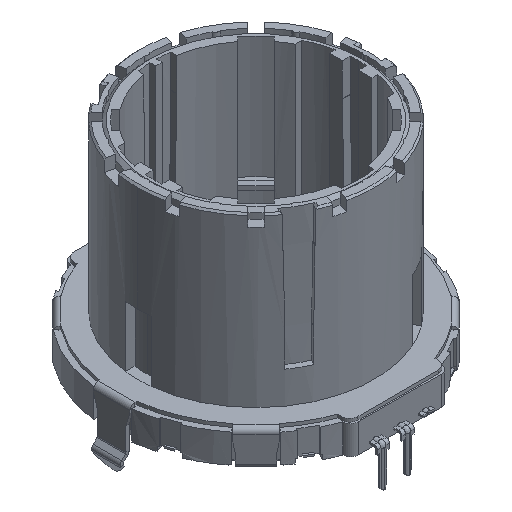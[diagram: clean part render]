
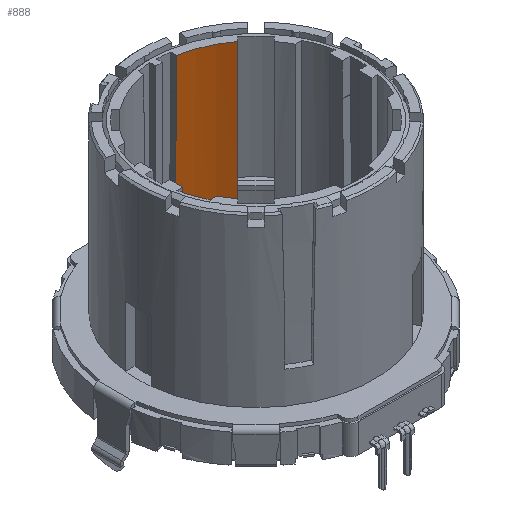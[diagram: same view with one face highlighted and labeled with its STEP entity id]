
A CAD part, isometric view. The second image highlights one B-rep face of the part: STEP entity #888.
In plain terms, the highlighted cylindrical face has radius 11.8 mm (diameter 23.6 mm), a partial arc.
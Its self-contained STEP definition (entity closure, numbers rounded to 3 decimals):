
#124 = CARTESIAN_POINT ( 'NONE',  ( -7.176, -9.368, 1.6 ) ) ;
#390 = ORIENTED_EDGE ( 'NONE', *, *, #37679, .T. ) ;
#571 = ORIENTED_EDGE ( 'NONE', *, *, #38125, .T. ) ;
#607 = CARTESIAN_POINT ( 'NONE',  ( -7.176, -9.368, 9.598 ) ) ;
#774 = AXIS2_PLACEMENT_3D ( 'NONE', #36142, #20303, #31395 ) ;
#888 = ADVANCED_FACE ( 'NONE', ( #32498 ), #12375, .F. ) ;
#931 = EDGE_CURVE ( 'NONE', #35921, #19997, #3735, .T. ) ;
#1370 = EDGE_CURVE ( 'NONE', #19569, #20358, #36460, .T. ) ;
#1493 = CIRCLE ( 'NONE', #41025, 11.8 ) ;
#1787 = LINE ( 'NONE', #28330, #18983 ) ;
#2416 = CARTESIAN_POINT ( 'NONE',  ( -1.883, -11.649, 10.603 ) ) ;
#2620 = ORIENTED_EDGE ( 'NONE', *, *, #27553, .T. ) ;
#3326 = ORIENTED_EDGE ( 'NONE', *, *, #38702, .T. ) ;
#3391 = VECTOR ( 'NONE', #13379, 1000. ) ;
#3735 = CIRCLE ( 'NONE', #774, 11.8 ) ;
#3882 = CARTESIAN_POINT ( 'NONE',  ( -7.176, -9.368, 13.1 ) ) ;
#3987 = DIRECTION ( 'NONE',  ( 0., 0., 1. ) ) ;
#4132 = VECTOR ( 'NONE', #3987, 1000. ) ;
#4390 = CARTESIAN_POINT ( 'NONE',  ( -7.176, -9.368, 24.6 ) ) ;
#5108 = AXIS2_PLACEMENT_3D ( 'NONE', #37582, #37846, #23611 ) ;
#5686 = AXIS2_PLACEMENT_3D ( 'NONE', #33535, #14256, #36747 ) ;
#6005 = VECTOR ( 'NONE', #38815, 1000. ) ;
#6383 = ORIENTED_EDGE ( 'NONE', *, *, #28188, .T. ) ;
#7125 = DIRECTION ( 'NONE',  ( 0., 0., 1. ) ) ;
#7132 = DIRECTION ( 'NONE',  ( 0., 0., 1. ) ) ;
#7653 = EDGE_CURVE ( 'NONE', #16490, #22680, #41532, .T. ) ;
#7840 = CARTESIAN_POINT ( 'NONE',  ( -2., -11.629, 20.6 ) ) ;
#8250 = CARTESIAN_POINT ( 'NONE',  ( -1.8, -11.662, 1.6 ) ) ;
#9303 = CARTESIAN_POINT ( 'NONE',  ( -1.85, -11.654, 5.6 ) ) ;
#11660 = ORIENTED_EDGE ( 'NONE', *, *, #28681, .T. ) ;
#12041 = DIRECTION ( 'NONE',  ( 0., 0., -1. ) ) ;
#12375 = CYLINDRICAL_SURFACE ( 'NONE', #5108, 11.8 ) ;
#12887 = ORIENTED_EDGE ( 'NONE', *, *, #1370, .T. ) ;
#13379 = DIRECTION ( 'NONE',  ( 0., 0., 1. ) ) ;
#14256 = DIRECTION ( 'NONE',  ( 0., 0., 1. ) ) ;
#16286 = CARTESIAN_POINT ( 'NONE',  ( -1.8, -11.662, 13.1 ) ) ;
#16490 = VERTEX_POINT ( 'NONE', #19732 ) ;
#16590 =( BOUNDED_CURVE ( )  B_SPLINE_CURVE ( 3, ( #37790, #21777, #2416, #25020 ),
 .UNSPECIFIED., .F., .F. ) 
 B_SPLINE_CURVE_WITH_KNOTS ( ( 4, 4 ),
 ( 4.546, 4.555 ),
 .UNSPECIFIED. ) 
 CURVE ( )  GEOMETRIC_REPRESENTATION_ITEM ( )  RATIONAL_B_SPLINE_CURVE ( ( 1., 1., 1., 1. ) ) 
 REPRESENTATION_ITEM ( '' )  );
#18405 = VERTEX_POINT ( 'NONE', #21752 ) ;
#18983 = VECTOR ( 'NONE', #12041, 1000. ) ;
#19330 = EDGE_CURVE ( 'NONE', #26879, #36456, #1493, .T. ) ;
#19569 = VERTEX_POINT ( 'NONE', #8250 ) ;
#19732 = CARTESIAN_POINT ( 'NONE',  ( -7.176, -9.368, 9. ) ) ;
#19997 = VERTEX_POINT ( 'NONE', #27100 ) ;
#20303 = DIRECTION ( 'NONE',  ( 0., 0., 1. ) ) ;
#20358 = VERTEX_POINT ( 'NONE', #124 ) ;
#21312 = LINE ( 'NONE', #23189, #4132 ) ;
#21752 = CARTESIAN_POINT ( 'NONE',  ( -2., -11.629, 24.6 ) ) ;
#21777 = CARTESIAN_POINT ( 'NONE',  ( -1.917, -11.643, 15.604 ) ) ;
#22680 = VERTEX_POINT ( 'NONE', #607 ) ;
#23162 = LINE ( 'NONE', #16286, #6005 ) ;
#23189 = CARTESIAN_POINT ( 'NONE',  ( -7.176, -9.368, 13.1 ) ) ;
#23611 = DIRECTION ( 'NONE',  ( 0., 1., 0. ) ) ;
#25020 = CARTESIAN_POINT ( 'NONE',  ( -1.85, -11.654, 5.6 ) ) ;
#25298 = CARTESIAN_POINT ( 'NONE',  ( -1.8, -11.662, 5.6 ) ) ;
#25410 = ORIENTED_EDGE ( 'NONE', *, *, #931, .T. ) ;
#26007 = ORIENTED_EDGE ( 'NONE', *, *, #7653, .T. ) ;
#26436 = CARTESIAN_POINT ( 'NONE',  ( 0., 0., 5.6 ) ) ;
#26879 = VERTEX_POINT ( 'NONE', #9303 ) ;
#27100 = CARTESIAN_POINT ( 'NONE',  ( -1.95, -11.638, 20.6 ) ) ;
#27553 = EDGE_CURVE ( 'NONE', #20358, #16490, #21312, .T. ) ;
#28188 = EDGE_CURVE ( 'NONE', #39259, #18405, #37756, .T. ) ;
#28330 = CARTESIAN_POINT ( 'NONE',  ( -2., -11.629, 13.1 ) ) ;
#28491 = VECTOR ( 'NONE', #7132, 1000. ) ;
#28681 = EDGE_CURVE ( 'NONE', #22680, #39259, #36668, .T. ) ;
#28767 = ORIENTED_EDGE ( 'NONE', *, *, #19330, .T. ) ;
#28768 = DIRECTION ( 'NONE',  ( 0., 1., 0. ) ) ;
#29046 = DIRECTION ( 'NONE',  ( 0., 0., -1. ) ) ;
#29512 = CARTESIAN_POINT ( 'NONE',  ( 0., 0., 1.6 ) ) ;
#29669 = DIRECTION ( 'NONE',  ( 0., 1., 0. ) ) ;
#29681 = CARTESIAN_POINT ( 'NONE',  ( -7.176, -9.368, 13.1 ) ) ;
#31395 = DIRECTION ( 'NONE',  ( 0., 1., 0. ) ) ;
#31546 = EDGE_LOOP ( 'NONE', ( #28767, #390, #12887, #2620, #26007, #11660, #6383, #3326, #25410, #571 ) ) ;
#32498 = FACE_OUTER_BOUND ( 'NONE', #31546, .T. ) ;
#33535 = CARTESIAN_POINT ( 'NONE',  ( 0., 0., 24.6 ) ) ;
#33762 = AXIS2_PLACEMENT_3D ( 'NONE', #29512, #29046, #28768 ) ;
#35921 = VERTEX_POINT ( 'NONE', #7840 ) ;
#36142 = CARTESIAN_POINT ( 'NONE',  ( 0., 0., 20.6 ) ) ;
#36456 = VERTEX_POINT ( 'NONE', #25298 ) ;
#36460 = CIRCLE ( 'NONE', #33762, 11.8 ) ;
#36668 = LINE ( 'NONE', #3882, #3391 ) ;
#36747 = DIRECTION ( 'NONE',  ( 0., 1., 0. ) ) ;
#37582 = CARTESIAN_POINT ( 'NONE',  ( 0., 0., 24.6 ) ) ;
#37679 = EDGE_CURVE ( 'NONE', #36456, #19569, #23162, .T. ) ;
#37756 = CIRCLE ( 'NONE', #5686, 11.8 ) ;
#37790 = CARTESIAN_POINT ( 'NONE',  ( -1.95, -11.638, 20.6 ) ) ;
#37846 = DIRECTION ( 'NONE',  ( 0., 0., -1. ) ) ;
#38125 = EDGE_CURVE ( 'NONE', #19997, #26879, #16590, .T. ) ;
#38702 = EDGE_CURVE ( 'NONE', #18405, #35921, #1787, .T. ) ;
#38815 = DIRECTION ( 'NONE',  ( 0., 0., -1. ) ) ;
#39259 = VERTEX_POINT ( 'NONE', #4390 ) ;
#41025 = AXIS2_PLACEMENT_3D ( 'NONE', #26436, #7125, #29669 ) ;
#41532 = LINE ( 'NONE', #29681, #28491 ) ;
